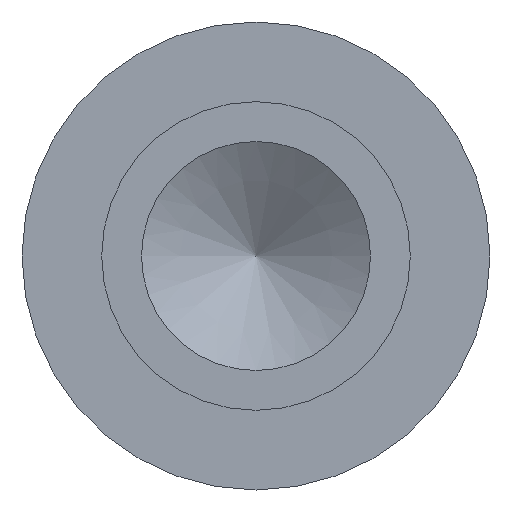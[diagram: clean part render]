
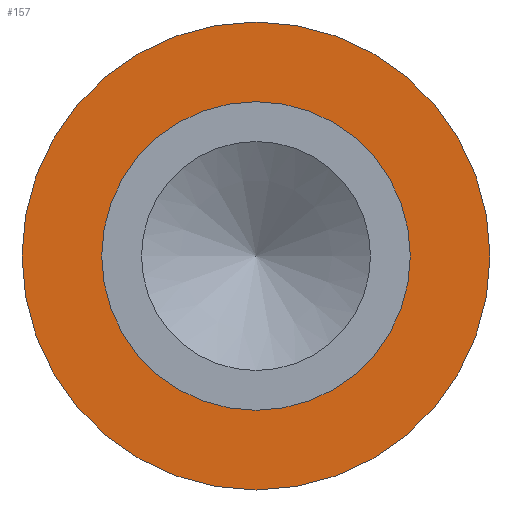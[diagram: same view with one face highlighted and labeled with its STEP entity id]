
A CAD part, left-side view. The second image highlights one B-rep face of the part: STEP entity #157.
In plain terms, the highlighted planar face has unit normal (-1, 0, 0).
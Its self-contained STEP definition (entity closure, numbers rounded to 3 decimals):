
#13=PLANE($,#179);
#22=FACE_BOUND($,#61,.T.);
#46=FACE_OUTER_BOUND($,#60,.T.);
#60=EDGE_LOOP($,(#130));
#61=EDGE_LOOP($,(#131));
#85=CIRCLE($,#177,0.787);
#87=CIRCLE($,#180,1.194);
#99=VERTEX_POINT($,#269);
#101=VERTEX_POINT($,#274);
#113=EDGE_CURVE($,#99,#99,#85,.T.);
#115=EDGE_CURVE($,#101,#101,#87,.T.);
#130=ORIENTED_EDGE($,*,*,#115,.F.);
#131=ORIENTED_EDGE($,*,*,#113,.T.);
#157=ADVANCED_FACE($,(#46,#22),#13,.T.);
#177=AXIS2_PLACEMENT_3D($,#270,#213,#214);
#179=AXIS2_PLACEMENT_3D($,#273,#217,#218);
#180=AXIS2_PLACEMENT_3D($,#275,#219,#220);
#213=DIRECTION('center_axis',(1.,0.,0.));
#214=DIRECTION('ref_axis',(0.,1.,0.));
#217=DIRECTION('center_axis',(-1.,0.,0.));
#218=DIRECTION('ref_axis',(0.,0.,1.));
#219=DIRECTION('center_axis',(1.,0.,0.));
#220=DIRECTION('ref_axis',(0.,1.,0.));
#269=CARTESIAN_POINT('',(1.346,0.787,0.));
#270=CARTESIAN_POINT('Origin',(1.346,0.,0.));
#273=CARTESIAN_POINT('Origin',(1.346,0.991,0.));
#274=CARTESIAN_POINT('',(1.346,1.194,0.));
#275=CARTESIAN_POINT('Origin',(1.346,0.,0.));
